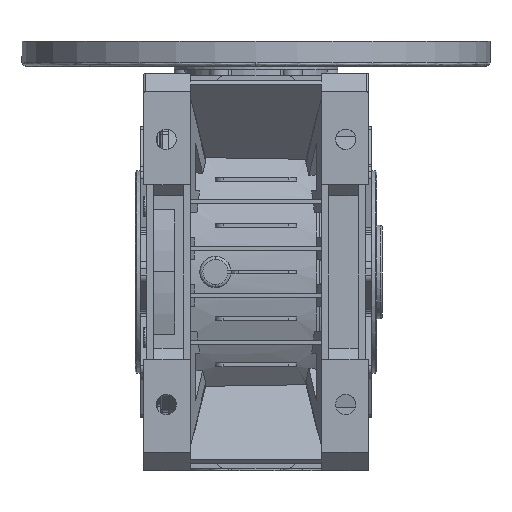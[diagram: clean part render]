
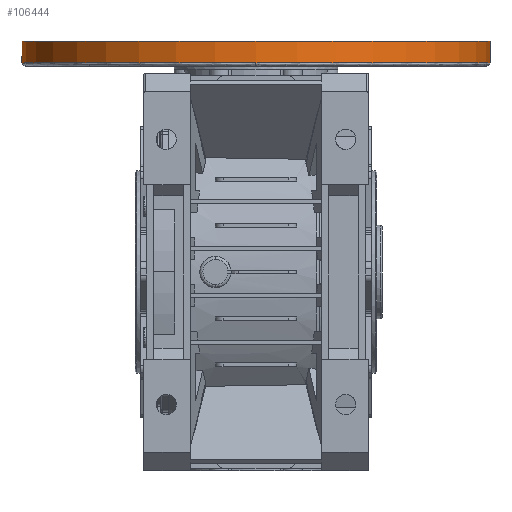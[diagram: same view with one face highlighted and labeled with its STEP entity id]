
A CAD part, front view. The second image highlights one B-rep face of the part: STEP entity #106444.
In plain terms, the highlighted cylindrical face has radius 150 mm (diameter 300 mm), a partial arc.
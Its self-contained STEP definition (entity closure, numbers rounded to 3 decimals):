
#11912 = CARTESIAN_POINT ( 'NONE',  ( 150., 0., 134. ) ) ;
#39595 = CARTESIAN_POINT ( 'NONE',  ( 0., -150., 134. ) ) ;
#43068 = CARTESIAN_POINT ( 'NONE',  ( 0., 0., 134. ) ) ;
#43097 = DIRECTION ( 'NONE',  ( 0., -1., 0. ) ) ;
#43100 = DIRECTION ( 'NONE',  ( 0., 0., -1. ) ) ;
#43103 = AXIS2_PLACEMENT_3D ( 'NONE', #43068, #43100, #43097 ) ;
#43106 = CIRCLE ( 'NONE', #43103, 150. ) ;
#47078 = VERTEX_POINT ( 'NONE', #39595 ) ;
#47977 = EDGE_CURVE ( 'NONE', #48241, #47078, #43106, .T. ) ;
#48241 = VERTEX_POINT ( 'NONE', #11912 ) ;
#66146 = DIRECTION ( 'NONE',  ( 0., -1., 0. ) ) ;
#66147 = DIRECTION ( 'NONE',  ( 0., 0., -1. ) ) ;
#66148 = CARTESIAN_POINT ( 'NONE',  ( 0., 0., 134. ) ) ;
#66149 = AXIS2_PLACEMENT_3D ( 'NONE', #66148, #66147, #66146 ) ;
#66150 = CIRCLE ( 'NONE', #66149, 150. ) ;
#66273 = DIRECTION ( 'NONE',  ( 0., 0., -1. ) ) ;
#66274 = VECTOR ( 'NONE', #66273, 1000. ) ;
#66275 = CARTESIAN_POINT ( 'NONE',  ( -150., 0., 141. ) ) ;
#66276 = LINE ( 'NONE', #66275, #66274 ) ;
#66277 = CARTESIAN_POINT ( 'NONE',  ( -150., 0., 134. ) ) ;
#66283 = DIRECTION ( 'NONE',  ( 0., 0., -1. ) ) ;
#66284 = VECTOR ( 'NONE', #66283, 1000. ) ;
#66285 = CARTESIAN_POINT ( 'NONE',  ( 150., 0., 141. ) ) ;
#66286 = LINE ( 'NONE', #66285, #66284 ) ;
#66287 = CARTESIAN_POINT ( 'NONE',  ( 150., 0., 148. ) ) ;
#66288 = CARTESIAN_POINT ( 'NONE',  ( -150., 0., 148. ) ) ;
#67153 = DIRECTION ( 'NONE',  ( -1., 0., 0. ) ) ;
#67155 = DIRECTION ( 'NONE',  ( 0., 0., -1. ) ) ;
#67157 = CARTESIAN_POINT ( 'NONE',  ( 0., 0., 148. ) ) ;
#67158 = AXIS2_PLACEMENT_3D ( 'NONE', #67157, #67155, #67153 ) ;
#67160 = CIRCLE ( 'NONE', #67158, 150. ) ;
#67200 = DIRECTION ( 'NONE',  ( -1., 0., 0. ) ) ;
#67202 = DIRECTION ( 'NONE',  ( 0., 0., -1. ) ) ;
#67204 = AXIS2_PLACEMENT_3D ( 'NONE', #67210, #67202, #67200 ) ;
#67210 = CARTESIAN_POINT ( 'NONE',  ( 0., 0., 141. ) ) ;
#67211 = CYLINDRICAL_SURFACE ( 'NONE', #67204, 150. ) ;
#67212 = FACE_OUTER_BOUND ( 'NONE', #106445, .T. ) ;
#105756 = EDGE_CURVE ( 'NONE', #47078, #105819, #66150, .T. ) ;
#105812 = VERTEX_POINT ( 'NONE', #66288 ) ;
#105813 = VERTEX_POINT ( 'NONE', #66287 ) ;
#105815 = EDGE_CURVE ( 'NONE', #105813, #48241, #66286, .T. ) ;
#105819 = VERTEX_POINT ( 'NONE', #66277 ) ;
#105821 = EDGE_CURVE ( 'NONE', #105812, #105819, #66276, .T. ) ;
#106419 = ORIENTED_EDGE ( 'NONE', *, *, #106420, .T. ) ;
#106420 = EDGE_CURVE ( 'NONE', #105813, #105812, #67160, .T. ) ;
#106421 = ORIENTED_EDGE ( 'NONE', *, *, #105821, .T. ) ;
#106422 = ORIENTED_EDGE ( 'NONE', *, *, #105756, .F. ) ;
#106423 = ORIENTED_EDGE ( 'NONE', *, *, #47977, .F. ) ;
#106444 = ADVANCED_FACE ( 'NONE', ( #67212 ), #67211, .T. ) ;
#106445 = EDGE_LOOP ( 'NONE', ( #106446, #106419, #106421, #106422, #106423 ) ) ;
#106446 = ORIENTED_EDGE ( 'NONE', *, *, #105815, .F. ) ;
